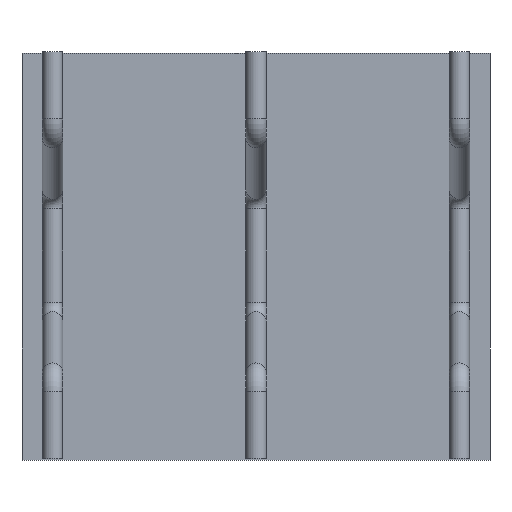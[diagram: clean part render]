
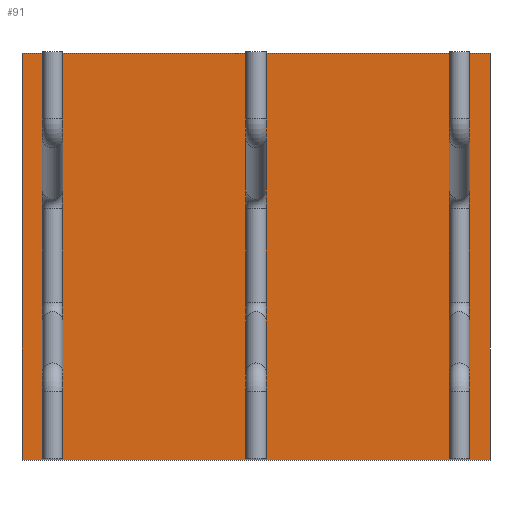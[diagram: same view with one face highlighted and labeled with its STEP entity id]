
A CAD part, top view. The second image highlights one B-rep face of the part: STEP entity #91.
In plain terms, the highlighted planar face has unit normal (0, 0, 1).
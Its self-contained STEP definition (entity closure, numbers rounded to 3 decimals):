
#52=CARTESIAN_POINT('Axis2P3D Location',(0.,0.,0.)) ;
#57=CARTESIAN_POINT('Line Origine',(0.,500.,0.)) ;
#61=CARTESIAN_POINT('Vertex',(575.,500.,0.)) ;
#63=CARTESIAN_POINT('Vertex',(-575.,500.,0.)) ;
#66=CARTESIAN_POINT('Line Origine',(-575.,0.,0.)) ;
#70=CARTESIAN_POINT('Vertex',(-575.,-500.,0.)) ;
#73=CARTESIAN_POINT('Line Origine',(0.,-500.,0.)) ;
#77=CARTESIAN_POINT('Vertex',(575.,-500.,0.)) ;
#80=CARTESIAN_POINT('Line Origine',(575.,0.,0.)) ;
#53=DIRECTION('Axis2P3D Direction',(0.,0.,1.)) ;
#54=DIRECTION('Axis2P3D XDirection',(1.,0.,0.)) ;
#58=DIRECTION('Vector Direction',(1.,0.,0.)) ;
#67=DIRECTION('Vector Direction',(0.,1.,0.)) ;
#74=DIRECTION('Vector Direction',(-1.,0.,0.)) ;
#81=DIRECTION('Vector Direction',(0.,-1.,0.)) ;
#55=AXIS2_PLACEMENT_3D('Plane Axis2P3D',#52,#53,#54) ;
#86=ORIENTED_EDGE('',*,*,#65,.T.) ;
#87=ORIENTED_EDGE('',*,*,#72,.T.) ;
#88=ORIENTED_EDGE('',*,*,#79,.T.) ;
#89=ORIENTED_EDGE('',*,*,#84,.T.) ;
#59=VECTOR('Line Direction',#58,1.) ;
#68=VECTOR('Line Direction',#67,1.) ;
#75=VECTOR('Line Direction',#74,1.) ;
#82=VECTOR('Line Direction',#81,1.) ;
#91=ADVANCED_FACE('Fill.1',(#90),#56,.T.) ;
#65=EDGE_CURVE('',#62,#64,#60,.F.) ;
#72=EDGE_CURVE('',#64,#71,#69,.F.) ;
#79=EDGE_CURVE('',#71,#78,#76,.F.) ;
#84=EDGE_CURVE('',#78,#62,#83,.F.) ;
#85=EDGE_LOOP('',(#86,#87,#88,#89)) ;
#90=FACE_OUTER_BOUND('',#85,.T.) ;
#60=LINE('Line',#57,#59) ;
#69=LINE('Line',#66,#68) ;
#76=LINE('Line',#73,#75) ;
#83=LINE('Line',#80,#82) ;
#56=PLANE('',#55) ;
#62=VERTEX_POINT('',#61) ;
#64=VERTEX_POINT('',#63) ;
#71=VERTEX_POINT('',#70) ;
#78=VERTEX_POINT('',#77) ;
